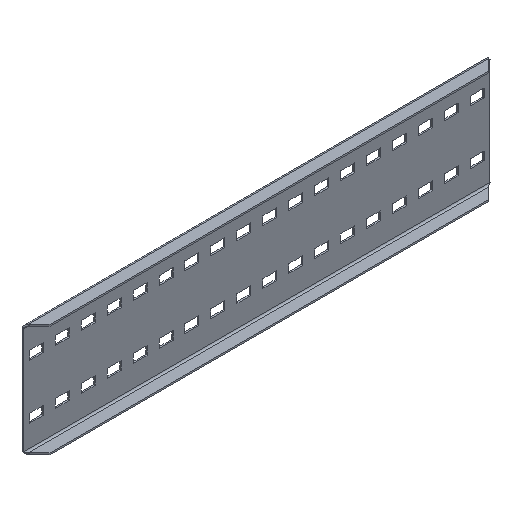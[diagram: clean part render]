
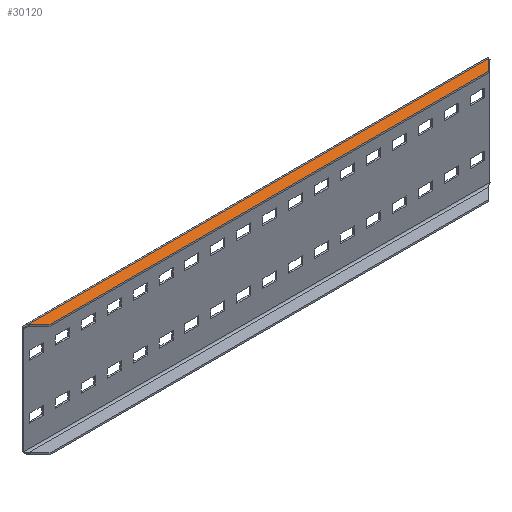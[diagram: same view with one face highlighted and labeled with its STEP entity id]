
A CAD part, isometric view. The second image highlights one B-rep face of the part: STEP entity #30120.
In plain terms, the highlighted planar face has unit normal (0, 0, 1) as drawn and (0, 1, 0) by its records, which use the part's own axes.
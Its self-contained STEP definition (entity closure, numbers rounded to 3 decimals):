
#29730=CARTESIAN_POINT('',(0.,145.,-143.163));
#29740=DIRECTION('',(0.,-1.,0.));
#29750=DIRECTION('',(1.,0.,0.));
#29760=AXIS2_PLACEMENT_3D('',#29730,#29740,#29750);
#29770=PLANE('',#29760);
#29780=CARTESIAN_POINT('',(740.563,145.,-143.163));
#29790=DIRECTION('',(0.707,0.,-0.707));
#29800=VECTOR('',#29790,1.);
#29810=LINE('',#29780,#29800);
#29820=CARTESIAN_POINT('',(581.4,145.,16.));
#29830=VERTEX_POINT('',#29820);
#29840=CARTESIAN_POINT('',(595.4,145.,2.));
#29850=VERTEX_POINT('',#29840);
#29860=EDGE_CURVE('',#29830,#29850,#29810,.T.);
#29870=ORIENTED_EDGE('',*,*,#29860,.T.);
#29880=CARTESIAN_POINT('',(600.,145.,16.));
#29890=DIRECTION('',(-1.,0.,0.));
#29900=VECTOR('',#29890,1.);
#29910=LINE('',#29880,#29900);
#29920=CARTESIAN_POINT('',(18.,145.,16.));
#29930=VERTEX_POINT('',#29920);
#29940=EDGE_CURVE('',#29830,#29930,#29910,.T.);
#29950=ORIENTED_EDGE('',*,*,#29940,.F.);
#29960=CARTESIAN_POINT('',(-141.163,145.,-143.163));
#29970=DIRECTION('',(0.707,0.,0.707));
#29980=VECTOR('',#29970,1.);
#29990=LINE('',#29960,#29980);
#30000=CARTESIAN_POINT('',(4.,145.,2.));
#30010=VERTEX_POINT('',#30000);
#30020=EDGE_CURVE('',#30010,#29930,#29990,.T.);
#30030=ORIENTED_EDGE('',*,*,#30020,.T.);
#30040=CARTESIAN_POINT('',(0.,145.,2.));
#30050=DIRECTION('',(1.,0.,0.));
#30060=VECTOR('',#30050,1.);
#30070=LINE('',#30040,#30060);
#30080=EDGE_CURVE('',#30010,#29850,#30070,.T.);
#30090=ORIENTED_EDGE('',*,*,#30080,.F.);
#30100=EDGE_LOOP('',(#30090,#30030,#29950,#29870));
#30110=FACE_OUTER_BOUND('',#30100,.T.);
#30120=ADVANCED_FACE('',(#30110),#29770,.F.);
